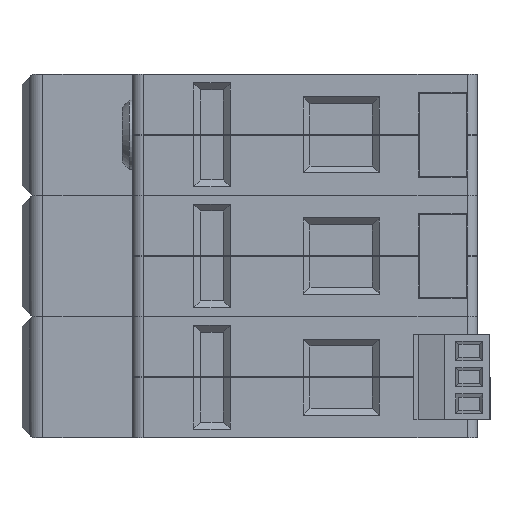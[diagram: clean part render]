
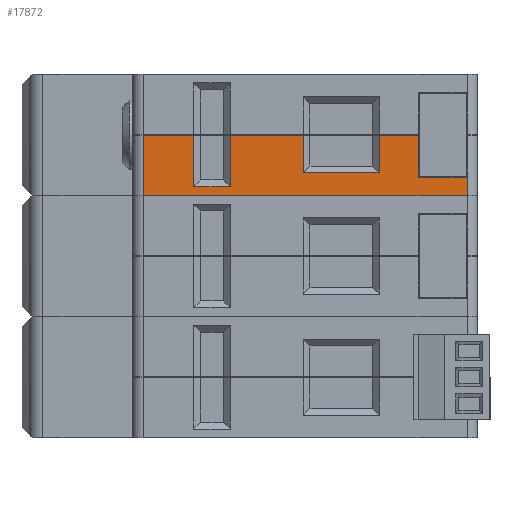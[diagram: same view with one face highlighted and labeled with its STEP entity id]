
A CAD part, left-side view. The second image highlights one B-rep face of the part: STEP entity #17872.
In plain terms, the highlighted planar face has unit normal (-1, 0, 0).
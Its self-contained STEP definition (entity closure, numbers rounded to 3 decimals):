
#1736=FACE_OUTER_BOUND('',#2755,.T.);
#2755=EDGE_LOOP('',(#15470,#15471,#15472,#15473,#15474,#15475,#15476,#15477,
#15478,#15479,#15480,#15481,#15482,#15483));
#4455=LINE('',#28456,#6495);
#4461=LINE('',#28468,#6501);
#4467=LINE('',#28480,#6507);
#4710=LINE('',#29023,#6750);
#4712=LINE('',#29030,#6752);
#4731=LINE('',#29067,#6771);
#4734=LINE('',#29074,#6774);
#4753=LINE('',#29111,#6793);
#4756=LINE('',#29118,#6796);
#4757=LINE('',#29120,#6797);
#4758=LINE('',#29122,#6798);
#4759=LINE('',#29123,#6799);
#4760=LINE('',#29124,#6800);
#4761=LINE('',#29125,#6801);
#6495=VECTOR('',#23270,10.);
#6501=VECTOR('',#23276,10.);
#6507=VECTOR('',#23282,10.);
#6750=VECTOR('',#23709,10.);
#6752=VECTOR('',#23717,10.);
#6771=VECTOR('',#23752,10.);
#6774=VECTOR('',#23759,10.);
#6793=VECTOR('',#23794,10.);
#6796=VECTOR('',#23801,10.);
#6797=VECTOR('',#23802,10.);
#6798=VECTOR('',#23803,10.);
#6799=VECTOR('',#23804,10.);
#6800=VECTOR('',#23805,10.);
#6801=VECTOR('',#23806,10.);
#8243=VERTEX_POINT('',#28453);
#8244=VERTEX_POINT('',#28455);
#8249=VERTEX_POINT('',#28465);
#8250=VERTEX_POINT('',#28467);
#8255=VERTEX_POINT('',#28477);
#8256=VERTEX_POINT('',#28479);
#8464=VERTEX_POINT('',#29021);
#8466=VERTEX_POINT('',#29029);
#8476=VERTEX_POINT('',#29065);
#8478=VERTEX_POINT('',#29073);
#8488=VERTEX_POINT('',#29109);
#8490=VERTEX_POINT('',#29117);
#8491=VERTEX_POINT('',#29119);
#8492=VERTEX_POINT('',#29121);
#10550=EDGE_CURVE('',#8244,#8243,#4455,.T.);
#10556=EDGE_CURVE('',#8250,#8249,#4461,.T.);
#10562=EDGE_CURVE('',#8256,#8255,#4467,.T.);
#10833=EDGE_CURVE('',#8464,#8243,#4710,.T.);
#10836=EDGE_CURVE('',#8244,#8466,#4712,.T.);
#10855=EDGE_CURVE('',#8476,#8249,#4731,.T.);
#10858=EDGE_CURVE('',#8250,#8478,#4734,.T.);
#10877=EDGE_CURVE('',#8488,#8255,#4753,.T.);
#10880=EDGE_CURVE('',#8464,#8490,#4756,.T.);
#10881=EDGE_CURVE('',#8491,#8490,#4757,.T.);
#10882=EDGE_CURVE('',#8491,#8492,#4758,.T.);
#10883=EDGE_CURVE('',#8492,#8256,#4759,.T.);
#10884=EDGE_CURVE('',#8478,#8488,#4760,.T.);
#10885=EDGE_CURVE('',#8466,#8476,#4761,.T.);
#15470=ORIENTED_EDGE('',*,*,#10550,.T.);
#15471=ORIENTED_EDGE('',*,*,#10833,.F.);
#15472=ORIENTED_EDGE('',*,*,#10880,.T.);
#15473=ORIENTED_EDGE('',*,*,#10881,.F.);
#15474=ORIENTED_EDGE('',*,*,#10882,.T.);
#15475=ORIENTED_EDGE('',*,*,#10883,.T.);
#15476=ORIENTED_EDGE('',*,*,#10562,.T.);
#15477=ORIENTED_EDGE('',*,*,#10877,.F.);
#15478=ORIENTED_EDGE('',*,*,#10884,.F.);
#15479=ORIENTED_EDGE('',*,*,#10858,.F.);
#15480=ORIENTED_EDGE('',*,*,#10556,.T.);
#15481=ORIENTED_EDGE('',*,*,#10855,.F.);
#15482=ORIENTED_EDGE('',*,*,#10885,.F.);
#15483=ORIENTED_EDGE('',*,*,#10836,.F.);
#16985=PLANE('',#19391);
#17872=ADVANCED_FACE('',(#1736),#16985,.T.);
#19391=AXIS2_PLACEMENT_3D('',#29116,#23799,#23800);
#23270=DIRECTION('',(0.,1.,0.));
#23276=DIRECTION('',(0.,1.,0.));
#23282=DIRECTION('',(0.,1.,0.));
#23709=DIRECTION('',(0.,0.,1.));
#23717=DIRECTION('',(0.,0.,-1.));
#23752=DIRECTION('',(0.,0.,1.));
#23759=DIRECTION('',(0.,0.,-1.));
#23794=DIRECTION('',(0.,0.,1.));
#23799=DIRECTION('center_axis',(-1.,0.,0.));
#23800=DIRECTION('ref_axis',(0.,-1.,0.));
#23801=DIRECTION('',(0.,-1.,0.));
#23802=DIRECTION('',(0.,0.,-1.));
#23803=DIRECTION('',(0.,1.,0.));
#23804=DIRECTION('',(0.,0.,1.));
#23805=DIRECTION('',(0.,-1.,0.));
#23806=DIRECTION('',(0.,-1.,0.));
#28453=CARTESIAN_POINT('',(-45.,12.5,8.7));
#28455=CARTESIAN_POINT('',(-45.,5.2,8.7));
#28456=CARTESIAN_POINT('',(-45.,4.197,8.7));
#28465=CARTESIAN_POINT('',(-45.,-0.1,8.7));
#28467=CARTESIAN_POINT('',(-45.,-10.6,8.7));
#28468=CARTESIAN_POINT('',(-45.,4.197,8.7));
#28477=CARTESIAN_POINT('',(-45.,-21.6,8.7));
#28479=CARTESIAN_POINT('',(-45.,-27.3,8.7));
#28480=CARTESIAN_POINT('',(-45.,4.197,8.7));
#29021=CARTESIAN_POINT('',(-45.,12.5,0.));
#29023=CARTESIAN_POINT('',(-45.,12.5,0.));
#29029=CARTESIAN_POINT('',(-45.,5.2,1.25));
#29030=CARTESIAN_POINT('',(-45.,5.2,1.125));
#29065=CARTESIAN_POINT('',(-45.,-0.1,1.25));
#29067=CARTESIAN_POINT('',(-45.,-0.1,7.625));
#29073=CARTESIAN_POINT('',(-45.,-10.6,3.25));
#29074=CARTESIAN_POINT('',(-45.,-10.6,2.125));
#29109=CARTESIAN_POINT('',(-45.,-21.6,3.25));
#29111=CARTESIAN_POINT('',(-45.,-21.6,6.625));
#29116=CARTESIAN_POINT('Origin',(-45.,14.,0.));
#29117=CARTESIAN_POINT('',(-45.,-34.3,0.));
#29118=CARTESIAN_POINT('',(-45.,14.,0.));
#29119=CARTESIAN_POINT('',(-45.,-34.3,2.64));
#29120=CARTESIAN_POINT('',(-45.,-34.3,0.));
#29121=CARTESIAN_POINT('',(-45.,-27.3,2.64));
#29122=CARTESIAN_POINT('',(-45.,-10.15,2.64));
#29123=CARTESIAN_POINT('',(-45.,-27.3,1.32));
#29124=CARTESIAN_POINT('',(-45.,-3.3,3.25));
#29125=CARTESIAN_POINT('',(-45.,7.45,1.25));
